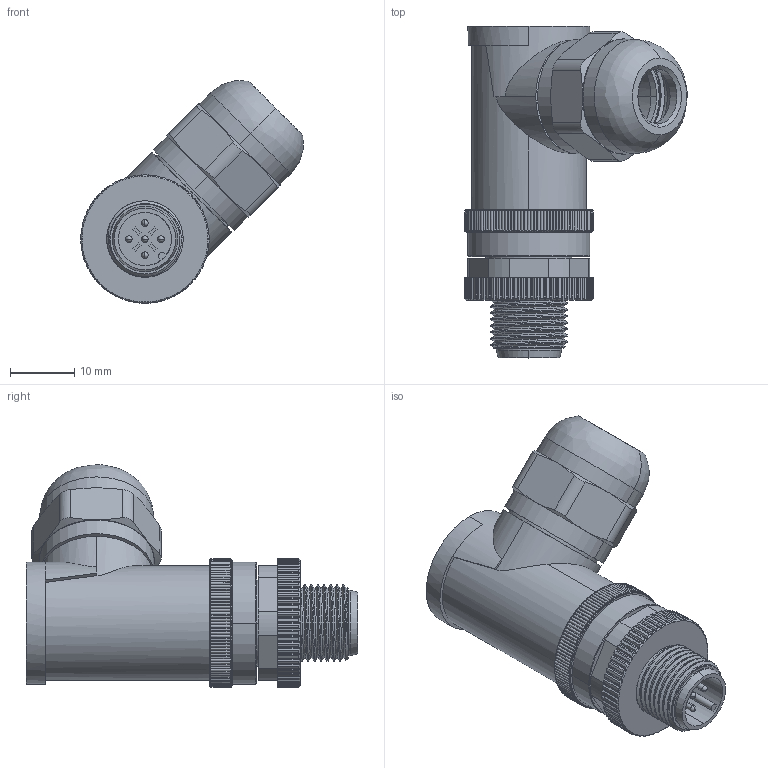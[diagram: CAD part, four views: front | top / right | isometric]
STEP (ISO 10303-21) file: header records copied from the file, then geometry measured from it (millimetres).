
FILE_DESCRIPTION((''),'2;1');
FILE_NAME('M12-3MR_P-PG9','2025-06-23T13:31:36',('lyj'),(''),'CREO PARAMETRIC BY PTC INC, 2019010','CREO PARAMETRIC BY PTC INC, 2019010','');
FILE_SCHEMA(('CONFIG_CONTROL_DESIGN'));
Length unit declared in the file: millimetre
Products named in the file (1): M12-3MR_P-PG9
Bounding box: 34.66 x 51.7 x 34.66 mm (x, y, z)
Volume: 10262.7 mm3; surface area: 13914.3 mm2
Topology: 2 solids, 14 shells, 1631 faces, 4335 edges, 2769 vertices
Faces by surface type: cylinder 787, cone 369, plane 363, bspline 50, extrusion 28, torus 24, sphere 10
Entity records: 73649 total; most frequent: CARTESIAN_POINT 34849, ORIENTED_EDGE 8650, DIRECTION 7459, EDGE_CURVE 4325, AXIS2_PLACEMENT_3D 2977, VERTEX_POINT 2769, EDGE_LOOP 1716, FACE_OUTER_BOUND 1631
